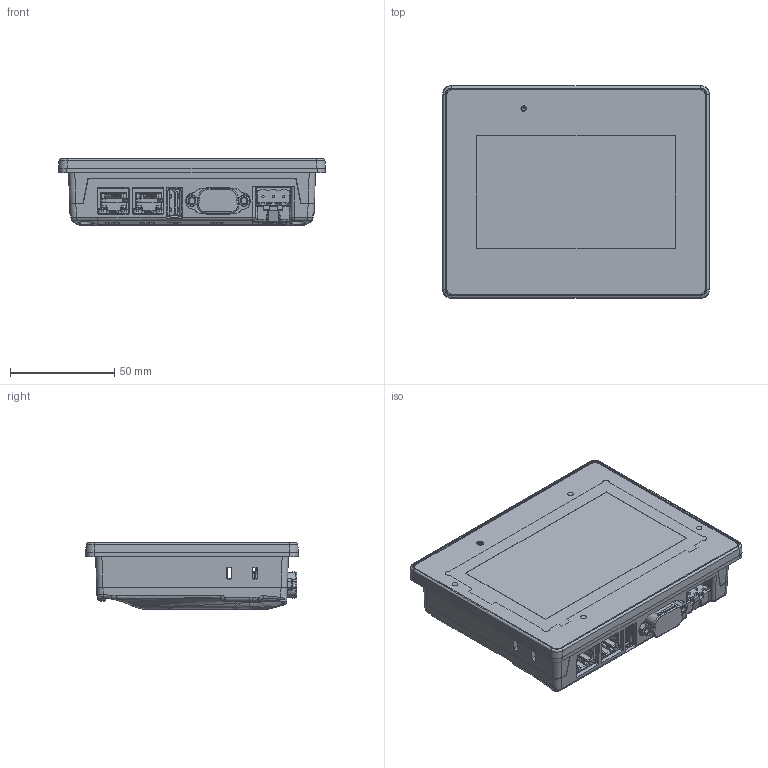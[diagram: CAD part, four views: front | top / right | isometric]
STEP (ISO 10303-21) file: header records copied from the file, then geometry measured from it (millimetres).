
FILE_DESCRIPTION (( 'STEP AP214' ), '1' );
FILE_NAME ('cMT2058XH(W).STEP', '2025-10-09T05:17:25', ( '' ), ( '' ), 'SwSTEP 2.0', 'SolidWorks 2019', '' );
FILE_SCHEMA (( 'AUTOMOTIVE_DESIGN' ));
Length unit declared in the file: millimetre
Products named in the file (1): cMT2058XH(W)
Bounding box: 128 x 102 x 32 mm (x, y, z)
Volume: 85048 mm3; surface area: 114782.1 mm2
Topology: 48 solids, 48 shells, 4411 faces, 11551 edges, 7246 vertices
Faces by surface type: plane 3023, cylinder 684, bspline 419, cone 145, torus 125, sphere 15
Full cylindrical faces by diameter (mm): 0.6 x9, 0.75 x4, 0.8 x9, 1 x15, 2.6 x5, 2.845 x4, 3 x5, 3.2 x4, 3.345 x4, 5.5 x4, 5.6 x1
Entity records: 198833 total; most frequent: CARTESIAN_POINT 47033, ORIENTED_EDGE 22534, DIRECTION 19040, EDGE_CURVE 11267, LINE 7834, VECTOR 7834, VERTEX_POINT 7184, AXIS2_PLACEMENT_3D 5603
